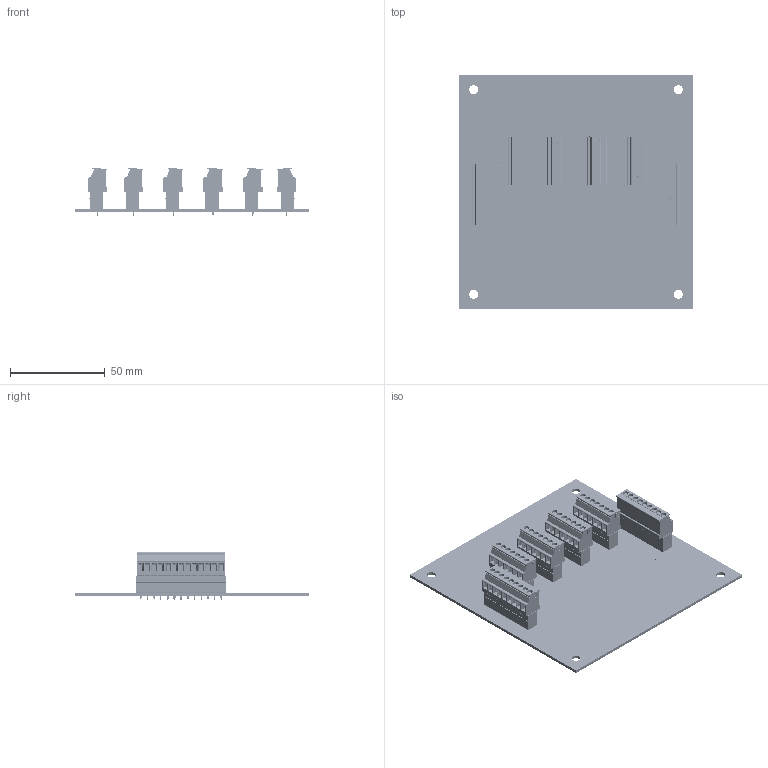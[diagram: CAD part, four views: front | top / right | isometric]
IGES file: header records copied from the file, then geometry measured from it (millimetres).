
Start section: SolidWorks IGES file using analytic representation for surfaces
Global section: file name: C:\0_Work\SolidWorks\HI 6020 Series\HI 6020 Series.IGS; native system: SolidWorks 2020; preprocessor: SolidWorks 2020; author: vach01; date: 210610.123756; units: inch
Bounding box: 123.83 x 123.83 x 25.1 mm (x, y, z)
Surface area: 63922.6 mm2 (no closed solid volume)
Topology: 0 solids, 0 shells, 9894 faces, 85070 edges, 85030 vertices
Faces by surface type: bspline 7992, revolution 1902
